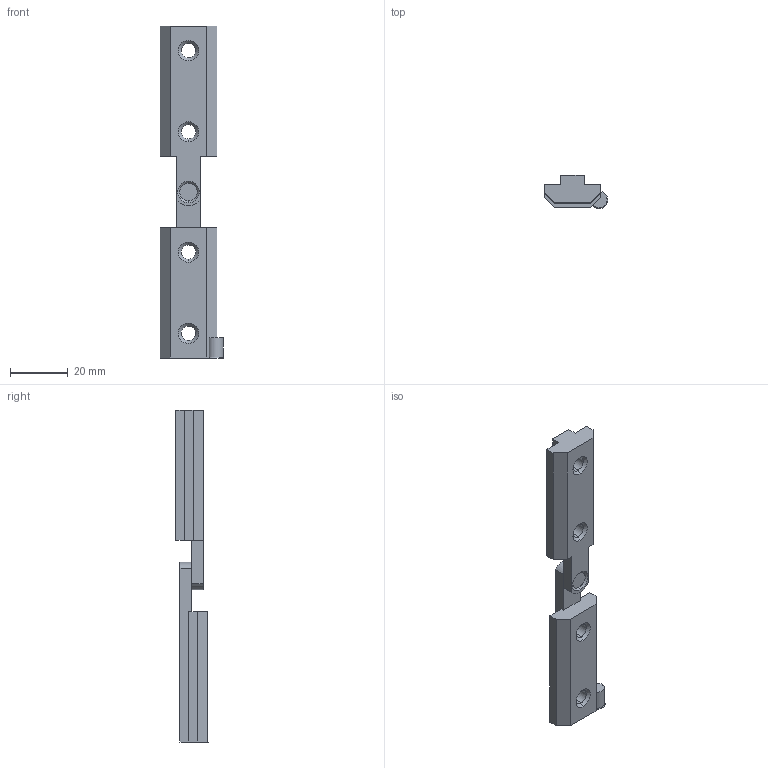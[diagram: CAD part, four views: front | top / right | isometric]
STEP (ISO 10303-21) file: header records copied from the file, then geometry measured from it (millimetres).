
FILE_DESCRIPTION (( 'STEP AP203' ), '1' );
FILE_NAME ('5351full.STEP', '2016-10-02T12:52:13', ( '' ), ( '' ), 'SwSTEP 2.0', 'SolidWorks 2014', '' );
FILE_SCHEMA (( 'CONFIG_CONTROL_DESIGN' ));
Length unit declared in the file: millimetre
Products named in the file (4): 5351full; 5351; 5351(1); 膹樖罻
Assembly tree (4 placements, depth 2):
  5351full
    5351(1)
    5351
    膹樖罻  x2
Bounding box: 21.93 x 11.26 x 114.49 mm (x, y, z)
Volume: 12806.2 mm3; surface area: 6929.3 mm2
Topology: 4 solids, 4 shells, 75 faces, 179 edges, 112 vertices
Faces by surface type: plane 32, cone 24, cylinder 19
Entity records: 2491 total; most frequent: DIRECTION 379, CARTESIAN_POINT 351, ORIENTED_EDGE 338, EDGE_CURVE 169, AXIS2_PLACEMENT_3D 134, LINE 111, VECTOR 111, VERTEX_POINT 106
